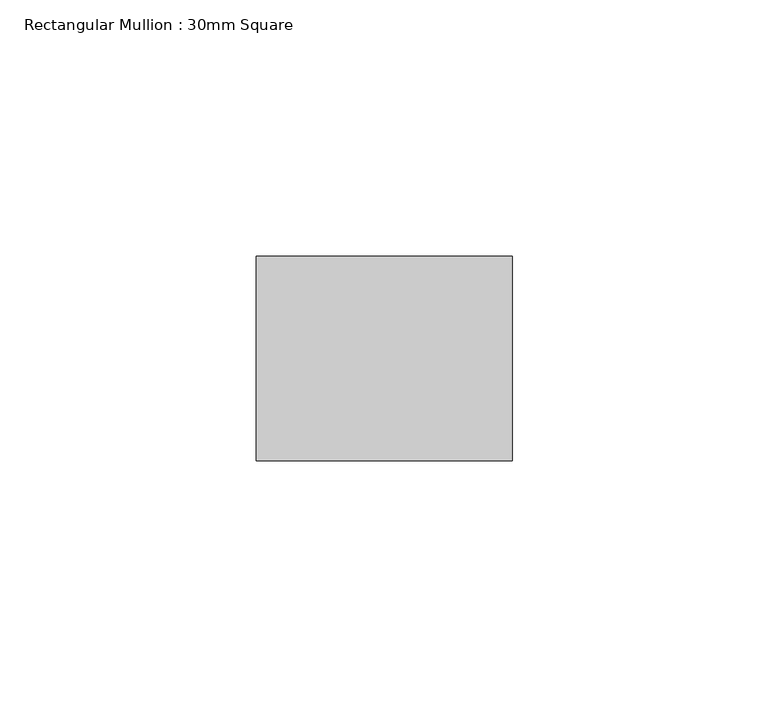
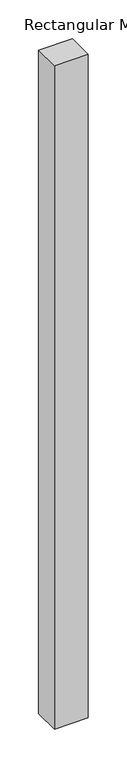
"""IFC4 building model written with IfcOpenShell, lengths in millimetres: member geometry, Rectangular Mullion : 30mm Square."""

from ifc_helpers import new_model, si_unit, frame, origin, place, context, project, spatial, polyline, outline, extrude, source, transform, mapped, element, save


def rectangular_mullion_30mm_square_58cf1550(model_context):
    return source(origin(), model_context, "Body", "SweptSolid", [
        extrude(outline(polyline([(25.0, 20.0), (25.0, -20.0), (-25.0, -20.0), (-25.0, 20.0), (25.0, 20.0)])), frame((0.0, 0.0, -1040.0), z_axis=(0.0, 0.0, 1.0), x_axis=(1.0, 0.0, 0.0)), (0.0, 0.0, 1.0), 1040.0),
    ])


if __name__ == "__main__":
    model = new_model("IFC4")
    model_context = context("Model", 3, world=origin())
    ifc_project = project(units=[si_unit("LENGTHUNIT", "METRE", prefix="MILLI")], contexts=[model_context])
    site = spatial("IfcSite", under=ifc_project)
    building = spatial("IfcBuilding", under=site)
    placement = place(None, origin())
    rectangular_mullion_30mm_square_shape = rectangular_mullion_30mm_square_58cf1550(model_context)
    element("IfcMember", 1, ObjectType="Rectangular Mullion : 30mm Square", at=placement, inside=building, context=model_context, shape_type="MappedRepresentation", body=[
        mapped(rectangular_mullion_30mm_square_shape, transform((0.0, 0.0, 0.0), x_axis=(1.0, 0.0, 0.0), y_axis=(0.0, 1.0, 0.0), z_axis=(0.0, 0.0, 1.0))),
    ])
    save(model, "model.ifc")
